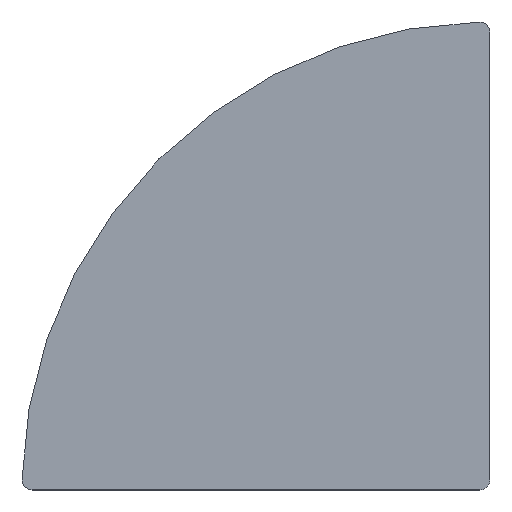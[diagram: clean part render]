
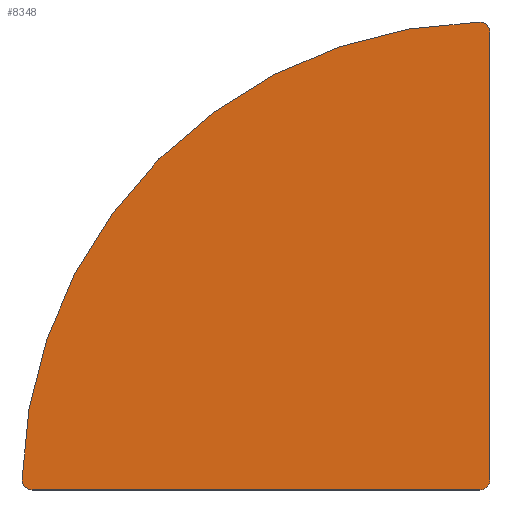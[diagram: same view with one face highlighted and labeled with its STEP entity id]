
A CAD part, top view. The second image highlights one B-rep face of the part: STEP entity #8348.
In plain terms, the highlighted planar face has unit normal (0, 0, 1).
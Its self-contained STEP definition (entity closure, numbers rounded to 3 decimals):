
#108 = EDGE_CURVE ( 'NONE', #1055, #3713, #3454, .T. ) ;
#522 = CARTESIAN_POINT ( 'NONE',  ( 0., 0., 3. ) ) ;
#586 = FACE_OUTER_BOUND ( 'NONE', #3621, .T. ) ;
#791 = ORIENTED_EDGE ( 'NONE', *, *, #1790, .T. ) ;
#866 = CARTESIAN_POINT ( 'NONE',  ( -2., 0., 3. ) ) ;
#1055 = VERTEX_POINT ( 'NONE', #4670 ) ;
#1282 = LINE ( 'NONE', #9872, #5641 ) ;
#1390 = DIRECTION ( 'NONE',  ( 1., 0., 0. ) ) ;
#1468 = ORIENTED_EDGE ( 'NONE', *, *, #1578, .T. ) ;
#1480 = DIRECTION ( 'NONE',  ( 1., 0., 0. ) ) ;
#1544 = DIRECTION ( 'NONE',  ( 1., 0., 0. ) ) ;
#1577 = DIRECTION ( 'NONE',  ( 0., 0., 1. ) ) ;
#1578 = EDGE_CURVE ( 'NONE', #7400, #2989, #7257, .T. ) ;
#1674 = ORIENTED_EDGE ( 'NONE', *, *, #2526, .T. ) ;
#1790 = EDGE_CURVE ( 'NONE', #2989, #1055, #1282, .T. ) ;
#1908 = CIRCLE ( 'NONE', #7916, 90. ) ;
#2343 = CARTESIAN_POINT ( 'NONE',  ( -2., 87.977, 3. ) ) ;
#2396 = CIRCLE ( 'NONE', #4830, 2. ) ;
#2526 = EDGE_CURVE ( 'NONE', #3713, #6368, #1908, .T. ) ;
#2617 = VERTEX_POINT ( 'NONE', #6234 ) ;
#2771 = LINE ( 'NONE', #7332, #7606 ) ;
#2810 = AXIS2_PLACEMENT_3D ( 'NONE', #9137, #9023, #9896 ) ;
#2989 = VERTEX_POINT ( 'NONE', #3690 ) ;
#3131 = CARTESIAN_POINT ( 'NONE',  ( -2.045, 89.977, 3. ) ) ;
#3454 = CIRCLE ( 'NONE', #5068, 2. ) ;
#3621 = EDGE_LOOP ( 'NONE', ( #791, #7968, #1674, #7544, #7843, #1468 ) ) ;
#3627 = EDGE_CURVE ( 'NONE', #6368, #2617, #2396, .T. ) ;
#3690 = CARTESIAN_POINT ( 'NONE',  ( 0., 2., 3. ) ) ;
#3713 = VERTEX_POINT ( 'NONE', #3131 ) ;
#3886 = CARTESIAN_POINT ( 'NONE',  ( -89.977, 2.045, 3. ) ) ;
#4338 = AXIS2_PLACEMENT_3D ( 'NONE', #4703, #4494, #1544 ) ;
#4494 = DIRECTION ( 'NONE',  ( 0., 0., 1. ) ) ;
#4670 = CARTESIAN_POINT ( 'NONE',  ( 0., 87.977, 3. ) ) ;
#4703 = CARTESIAN_POINT ( 'NONE',  ( -2., 2., 3. ) ) ;
#4830 = AXIS2_PLACEMENT_3D ( 'NONE', #6915, #5346, #1480 ) ;
#5003 = EDGE_CURVE ( 'NONE', #7400, #2617, #2771, .T. ) ;
#5068 = AXIS2_PLACEMENT_3D ( 'NONE', #2343, #1577, #9098 ) ;
#5346 = DIRECTION ( 'NONE',  ( 0., 0., 1. ) ) ;
#5641 = VECTOR ( 'NONE', #8087, 1000. ) ;
#6234 = CARTESIAN_POINT ( 'NONE',  ( -87.977, 0., 3. ) ) ;
#6368 = VERTEX_POINT ( 'NONE', #3886 ) ;
#6631 = DIRECTION ( 'NONE',  ( 0., 0., 1. ) ) ;
#6788 = PLANE ( 'NONE',  #2810 ) ;
#6915 = CARTESIAN_POINT ( 'NONE',  ( -87.977, 2., 3. ) ) ;
#7257 = CIRCLE ( 'NONE', #4338, 2. ) ;
#7332 = CARTESIAN_POINT ( 'NONE',  ( 0., 0., 3. ) ) ;
#7400 = VERTEX_POINT ( 'NONE', #866 ) ;
#7544 = ORIENTED_EDGE ( 'NONE', *, *, #3627, .T. ) ;
#7606 = VECTOR ( 'NONE', #8960, 1000. ) ;
#7843 = ORIENTED_EDGE ( 'NONE', *, *, #5003, .F. ) ;
#7916 = AXIS2_PLACEMENT_3D ( 'NONE', #522, #6631, #1390 ) ;
#7968 = ORIENTED_EDGE ( 'NONE', *, *, #108, .T. ) ;
#8087 = DIRECTION ( 'NONE',  ( 0., 1., 0. ) ) ;
#8348 = ADVANCED_FACE ( 'NONE', ( #586 ), #6788, .T. ) ;
#8960 = DIRECTION ( 'NONE',  ( -1., 0., 0. ) ) ;
#9023 = DIRECTION ( 'NONE',  ( 0., 0., 1. ) ) ;
#9098 = DIRECTION ( 'NONE',  ( 1., 0., 0. ) ) ;
#9137 = CARTESIAN_POINT ( 'NONE',  ( 0., 0., 3. ) ) ;
#9872 = CARTESIAN_POINT ( 'NONE',  ( 0., 0., 3. ) ) ;
#9896 = DIRECTION ( 'NONE',  ( 1., 0., 0. ) ) ;
